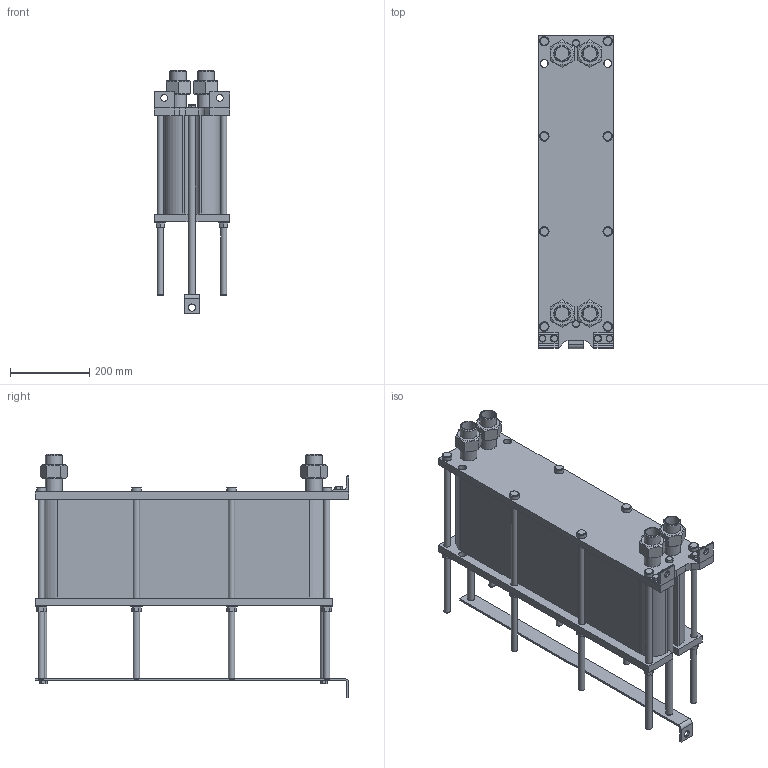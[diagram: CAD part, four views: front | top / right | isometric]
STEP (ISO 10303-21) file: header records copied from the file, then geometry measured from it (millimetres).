
FILE_DESCRIPTION(/* description */ (''),/* implementation_level */ '2;1');
FILE_NAME(/* name */ 'C:\Users\zhuro\Desktop\ENCO\TO\ЭН-008\ЭН-0,5-008-80-1.stp',/* time_stamp */ '2022-06-06T10:52:36+03:00',/* author */ ('zhuro'),/* organization */ (''),/* preprocessor_version */ 'ST-DEVELOPER v18.1',/* originating_system */ 'Autodesk Inventor 2022',/* authorisation */ '');
FILE_SCHEMA (('AUTOMOTIVE_DESIGN { 1 0 10303 214 3 1 1 }'));
Length unit declared in the file: millimetre
Products named in the file (1): ЭН-0,5-008-80-1
Bounding box: 190 x 790 x 613 mm (x, y, z)
Volume: 32166810.5 mm3; surface area: 1852348.2 mm2
Topology: 40 solids, 40 shells, 428 faces, 924 edges, 606 vertices
Faces by surface type: plane 273, cylinder 109, cone 40, torus 6
Full cylindrical faces by diameter (mm): 12 x6, 14 x2, 16 x20, 17 x8, 18 x19, 20 x5, 24 x8, 28 x8, 34.3 x8, 42.3 x8
Entity records: 15843 total; most frequent: CARTESIAN_POINT 5991, DIRECTION 1984, ORIENTED_EDGE 1848, EDGE_CURVE 924, AXIS2_PLACEMENT_3D 715, VERTEX_POINT 606, LINE 554, VECTOR 554
